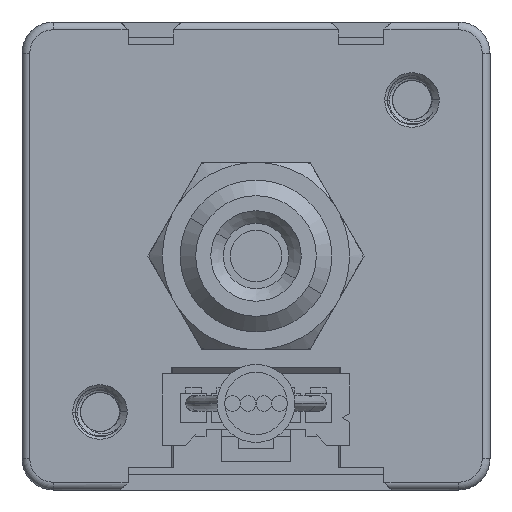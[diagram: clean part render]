
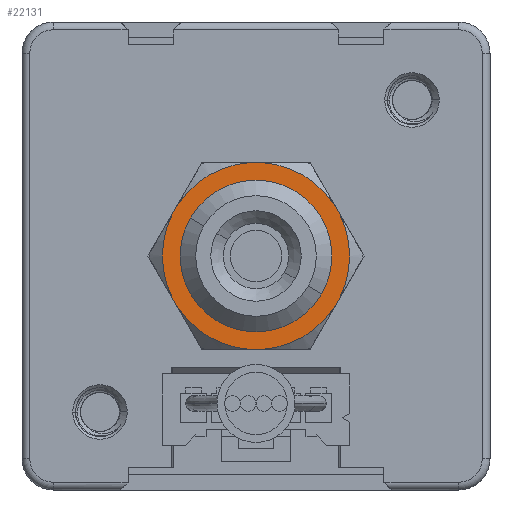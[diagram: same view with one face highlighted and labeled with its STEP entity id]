
A CAD part, front view. The second image highlights one B-rep face of the part: STEP entity #22131.
In plain terms, the highlighted planar face has unit normal (0, -1, 0).
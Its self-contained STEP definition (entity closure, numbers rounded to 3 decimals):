
#7248=CARTESIAN_POINT('',(5.361,-6.,2.695));
#7250=DIRECTION('',(-0.5,0.,0.866));
#7251=VECTOR('',#7250,0.693);
#7252=CARTESIAN_POINT('',(5.361,-6.,2.695));
#7253=LINE('',#7252,#7251);
#7254=CARTESIAN_POINT('',(5.014,-6.,3.295));
#7313=CARTESIAN_POINT('',(5.014,-6.,-3.295));
#7315=DIRECTION('',(0.5,0.,0.866));
#7316=VECTOR('',#7315,0.693);
#7317=CARTESIAN_POINT('',(5.014,-6.,-3.295));
#7318=LINE('',#7317,#7316);
#7378=CARTESIAN_POINT('',(-0.346,-6.,-5.99));
#7380=DIRECTION('',(1.,0.,0.));
#7381=VECTOR('',#7380,0.693);
#7382=CARTESIAN_POINT('',(-0.346,-6.,-5.99));
#7383=LINE('',#7382,#7381);
#7443=CARTESIAN_POINT('',(-5.361,-6.,-2.695));
#7445=DIRECTION('',(0.5,0.,-0.866));
#7446=VECTOR('',#7445,0.693);
#7447=CARTESIAN_POINT('',(-5.361,-6.,-2.695));
#7448=LINE('',#7447,#7446);
#7449=CARTESIAN_POINT('',(-5.014,-6.,-3.295));
#7508=CARTESIAN_POINT('',(-5.014,-6.,3.295));
#7510=DIRECTION('',(-0.5,0.,-0.866));
#7511=VECTOR('',#7510,0.693);
#7512=CARTESIAN_POINT('',(-5.014,-6.,3.295));
#7513=LINE('',#7512,#7511);
#7573=CARTESIAN_POINT('',(0.346,-6.,5.99));
#7575=DIRECTION('',(-1.,0.,0.));
#7576=VECTOR('',#7575,0.693);
#7577=CARTESIAN_POINT('',(0.346,-6.,5.99));
#7578=LINE('',#7577,#7576);
#7595=CARTESIAN_POINT('',(0.,-6.,0.));
#7596=DIRECTION('',(0.,-1.,0.));
#7597=DIRECTION('',(0.836,0.,0.549));
#7598=AXIS2_PLACEMENT_3D('',#7595,#7596,#7597);
#7605=CARTESIAN_POINT('',(0.,-6.,0.));
#7606=DIRECTION('',(0.,-1.,0.));
#7607=DIRECTION('',(-0.893,0.,0.449));
#7608=AXIS2_PLACEMENT_3D('',#7605,#7606,#7607);
#7610=CARTESIAN_POINT('',(0.,-6.,0.));
#7611=DIRECTION('',(0.,-1.,0.));
#7612=DIRECTION('',(-0.058,0.,0.998));
#7613=AXIS2_PLACEMENT_3D('',#7610,#7611,#7612);
#7615=CARTESIAN_POINT('',(0.,-6.,0.));
#7616=DIRECTION('',(0.,-1.,0.));
#7617=DIRECTION('',(0.893,0.,-0.449));
#7618=AXIS2_PLACEMENT_3D('',#7615,#7616,#7617);
#7620=CARTESIAN_POINT('',(0.,-6.,0.));
#7621=DIRECTION('',(0.,-1.,0.));
#7622=DIRECTION('',(0.058,0.,-0.998));
#7623=AXIS2_PLACEMENT_3D('',#7620,#7621,#7622);
#7630=CARTESIAN_POINT('',(0.,-6.,0.));
#7631=DIRECTION('',(0.,-1.,0.));
#7632=DIRECTION('',(-0.836,0.,-0.549));
#7633=AXIS2_PLACEMENT_3D('',#7630,#7631,#7632);
#7635=CARTESIAN_POINT('',(0.,-6.,0.));
#7636=DIRECTION('',(0.,-1.,0.));
#7637=DIRECTION('',(0.866,0.,-0.5));
#7638=AXIS2_PLACEMENT_3D('',#7635,#7636,#7637);
#7644=CARTESIAN_POINT('',(0.,-6.,0.));
#7645=DIRECTION('',(0.,1.,0.));
#7646=DIRECTION('',(0.866,0.,-0.5));
#7647=AXIS2_PLACEMENT_3D('',#7644,#7645,#7646);
#11647=VERTEX_POINT('',#7508);
#11649=VERTEX_POINT('',#7443);
#11650=VERTEX_POINT('',#7449);
#11653=VERTEX_POINT('',#7313);
#11655=VERTEX_POINT('',#7248);
#11656=VERTEX_POINT('',#7254);
#11658=CARTESIAN_POINT('',(0.346,-6.,-5.99));
#11659=VERTEX_POINT('',#11658);
#11660=CARTESIAN_POINT('',(5.361,-6.,-2.695));
#11661=VERTEX_POINT('',#11660);
#11662=CARTESIAN_POINT('',(-0.346,-6.,5.99));
#11663=VERTEX_POINT('',#11662);
#11664=CARTESIAN_POINT('',(-5.361,-6.,2.695));
#11665=VERTEX_POINT('',#11664);
#11680=VERTEX_POINT('',#7378);
#11684=VERTEX_POINT('',#7573);
#11702=CARTESIAN_POINT('',(3.464,-6.,-2.));
#11704=VERTEX_POINT('',#11702);
#11706=CARTESIAN_POINT('',(-3.464,-6.,2.));
#11708=VERTEX_POINT('',#11706);
#22101=CARTESIAN_POINT('',(0.,-6.,0.));
#22102=DIRECTION('',(0.,-1.,0.));
#22103=DIRECTION('',(-0.866,0.,0.5));
#22104=AXIS2_PLACEMENT_3D('',#22101,#22102,#22103);
#22105=PLANE('',#22104);
#22107=ORIENTED_EDGE('',*,*,#22106,.F.);
#22108=ORIENTED_EDGE('',*,*,#22017,.F.);
#22110=ORIENTED_EDGE('',*,*,#22109,.F.);
#22111=ORIENTED_EDGE('',*,*,#22049,.F.);
#22113=ORIENTED_EDGE('',*,*,#22112,.F.);
#22114=ORIENTED_EDGE('',*,*,#22080,.F.);
#22115=ORIENTED_EDGE('',*,*,#22093,.F.);
#22116=ORIENTED_EDGE('',*,*,#21920,.F.);
#22118=ORIENTED_EDGE('',*,*,#22117,.F.);
#22119=ORIENTED_EDGE('',*,*,#21952,.F.);
#22121=ORIENTED_EDGE('',*,*,#22120,.F.);
#22122=ORIENTED_EDGE('',*,*,#21984,.F.);
#22123=EDGE_LOOP('',(#22107,#22108,#22110,#22111,#22113,#22114,#22115,#22116,
#22118,#22119,#22121,#22122));
#22124=FACE_OUTER_BOUND('',#22123,.F.);
#22126=ORIENTED_EDGE('',*,*,#22125,.T.);
#22128=ORIENTED_EDGE('',*,*,#22127,.F.);
#22129=EDGE_LOOP('',(#22126,#22128));
#22130=FACE_BOUND('',#22129,.F.);
#22131=ADVANCED_FACE('',(#22124,#22130),#22105,.T.);
#7599=CIRCLE('',#7598,6.);
#7609=CIRCLE('',#7608,6.);
#7614=CIRCLE('',#7613,6.);
#7619=CIRCLE('',#7618,6.);
#7624=CIRCLE('',#7623,6.);
#7634=CIRCLE('',#7633,6.);
#7639=CIRCLE('',#7638,4.);
#7648=CIRCLE('',#7647,4.);
#21920=EDGE_CURVE('',#11655,#11656,#7253,.T.);
#21952=EDGE_CURVE('',#11653,#11661,#7318,.T.);
#21984=EDGE_CURVE('',#11680,#11659,#7383,.T.);
#22017=EDGE_CURVE('',#11649,#11650,#7448,.T.);
#22049=EDGE_CURVE('',#11647,#11665,#7513,.T.);
#22080=EDGE_CURVE('',#11684,#11663,#7578,.T.);
#22093=EDGE_CURVE('',#11656,#11684,#7599,.T.);
#22106=EDGE_CURVE('',#11650,#11680,#7634,.T.);
#22109=EDGE_CURVE('',#11665,#11649,#7609,.T.);
#22112=EDGE_CURVE('',#11663,#11647,#7614,.T.);
#22117=EDGE_CURVE('',#11661,#11655,#7619,.T.);
#22120=EDGE_CURVE('',#11659,#11653,#7624,.T.);
#22125=EDGE_CURVE('',#11704,#11708,#7639,.T.);
#22127=EDGE_CURVE('',#11704,#11708,#7648,.T.);
